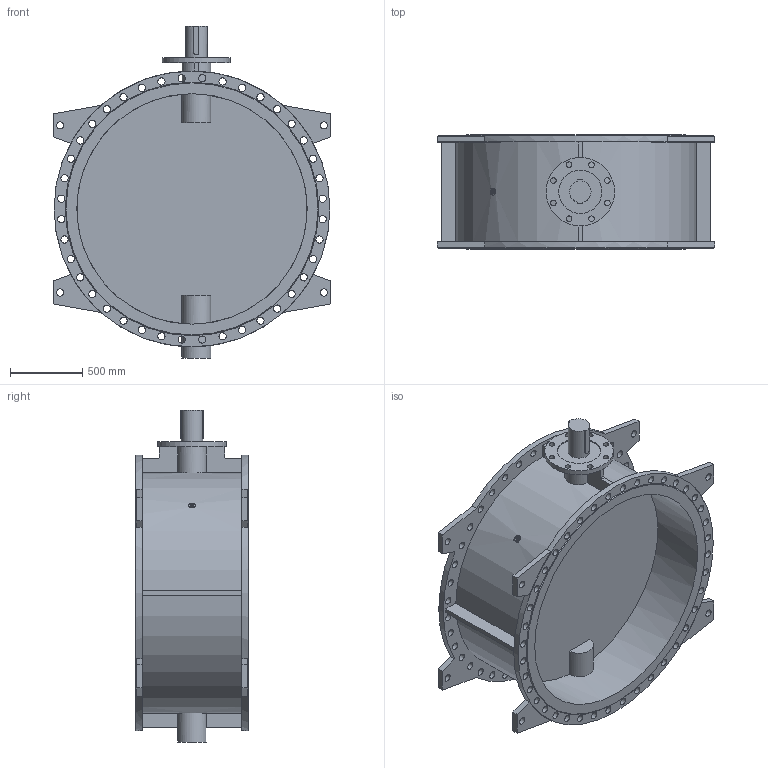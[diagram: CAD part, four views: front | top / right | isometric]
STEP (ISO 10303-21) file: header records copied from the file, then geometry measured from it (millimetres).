
FILE_DESCRIPTION(('STEP AP203'), '1');
FILE_NAME('Çàòâîð 023F.Z DN1600 PN10_èñï', '', ('UNSPECIFIED'), ('UNSPECIFIED'), 'ASCON STEP Converter 1.6', 'ASCON Math Kernel', '');
FILE_SCHEMA(('CONFIG_CONTROL_DESIGN'));
Length unit declared in the file: millimetre
Bounding box: 1930 x 790 x 2305 mm (x, y, z)
Volume: 457565859.8 mm3; surface area: 17045985.5 mm2
Topology: 1 solids, 1 shells, 208 faces, 582 edges, 388 vertices
Faces by surface type: cylinder 123, plane 83, cone 2
Full cylindrical faces by diameter (mm): 39 x8, 50 x88, 150 x1, 200 x1, 300 x1, 475 x1, 1600 x2, 1915 x2
Entity records: 9458 total; most frequent: CARTESIAN_POINT 2208, DIRECTION 1134, ORIENTED_EDGE 952, EDGE_LOOP 518, EDGE_CURVE 476, AXIS2_PLACEMENT_3D 468, VERTEX_POINT 388, FACE_BOUND 311
